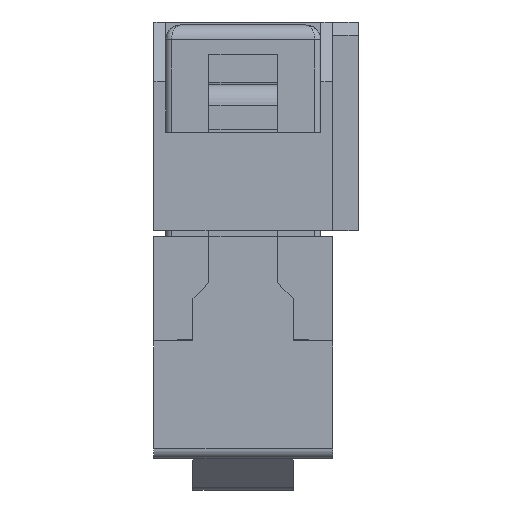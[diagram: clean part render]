
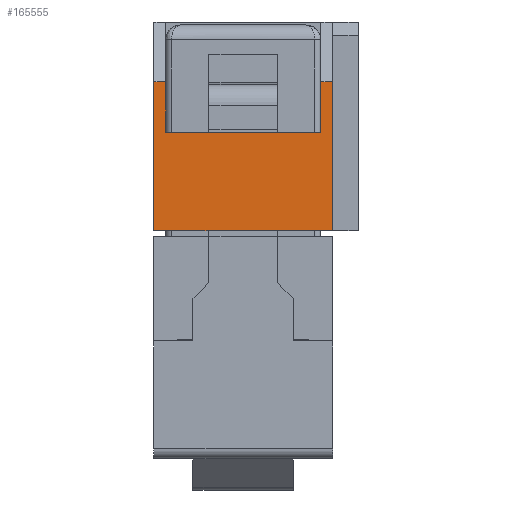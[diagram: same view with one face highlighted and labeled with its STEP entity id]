
A CAD part, left-side view. The second image highlights one B-rep face of the part: STEP entity #165555.
In plain terms, the highlighted planar face has unit normal (-1, 0, 0).
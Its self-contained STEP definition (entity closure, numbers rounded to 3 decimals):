
#155597 = PLANE('',#155598);
#155598 = AXIS2_PLACEMENT_3D('',#155599,#155600,#155601);
#155599 = CARTESIAN_POINT('',(-34.09,-3.,0.));
#155600 = DIRECTION('',(0.,0.,1.));
#155601 = DIRECTION('',(1.,0.,0.));
#158499 = VERTEX_POINT('',#158500);
#158500 = CARTESIAN_POINT('',(-34.09,-3.,0.));
#158514 = PLANE('',#158515);
#158515 = AXIS2_PLACEMENT_3D('',#158516,#158517,#158518);
#158516 = CARTESIAN_POINT('',(-34.09,-3.,7.));
#158517 = DIRECTION('',(0.,1.,0.));
#158518 = DIRECTION('',(-1.,0.,0.));
#158526 = EDGE_CURVE('',#158527,#158499,#158529,.T.);
#158527 = VERTEX_POINT('',#158528);
#158528 = CARTESIAN_POINT('',(-34.09,3.,0.));
#158529 = SURFACE_CURVE('',#158530,(#158534,#158541),.PCURVE_S1.);
#158530 = LINE('',#158531,#158532);
#158531 = CARTESIAN_POINT('',(-34.09,3.,0.));
#158532 = VECTOR('',#158533,1.);
#158533 = DIRECTION('',(0.,-1.,0.));
#158534 = PCURVE('',#155597,#158535);
#158535 = DEFINITIONAL_REPRESENTATION('',(#158536),#158540);
#158536 = LINE('',#158537,#158538);
#158537 = CARTESIAN_POINT('',(0.,6.));
#158538 = VECTOR('',#158539,1.);
#158539 = DIRECTION('',(0.,-1.));
#158540 = ( GEOMETRIC_REPRESENTATION_CONTEXT(2) 
PARAMETRIC_REPRESENTATION_CONTEXT() REPRESENTATION_CONTEXT('2D SPACE',''
  ) );
#158541 = PCURVE('',#158542,#158547);
#158542 = PLANE('',#158543);
#158543 = AXIS2_PLACEMENT_3D('',#158544,#158545,#158546);
#158544 = CARTESIAN_POINT('',(-34.09,3.,7.));
#158545 = DIRECTION('',(1.,0.,0.));
#158546 = DIRECTION('',(0.,0.,-1.));
#158547 = DEFINITIONAL_REPRESENTATION('',(#158548),#158552);
#158548 = LINE('',#158549,#158550);
#158549 = CARTESIAN_POINT('',(7.,0.));
#158550 = VECTOR('',#158551,1.);
#158551 = DIRECTION('',(0.,-1.));
#158552 = ( GEOMETRIC_REPRESENTATION_CONTEXT(2) 
PARAMETRIC_REPRESENTATION_CONTEXT() REPRESENTATION_CONTEXT('2D SPACE',''
  ) );
#158570 = PLANE('',#158571);
#158571 = AXIS2_PLACEMENT_3D('',#158572,#158573,#158574);
#158572 = CARTESIAN_POINT('',(34.09,3.,7.));
#158573 = DIRECTION('',(0.,-1.,0.));
#158574 = DIRECTION('',(1.,0.,0.));
#161036 = PLANE('',#161037);
#161037 = AXIS2_PLACEMENT_3D('',#161038,#161039,#161040);
#161038 = CARTESIAN_POINT('',(-33.69,-2.6,68.881));
#161039 = DIRECTION('',(0.,1.,0.));
#161040 = DIRECTION('',(-1.,0.,0.));
#161109 = PLANE('',#161110);
#161110 = AXIS2_PLACEMENT_3D('',#161111,#161112,#161113);
#161111 = CARTESIAN_POINT('',(-32.29,2.6,68.881));
#161112 = DIRECTION('',(0.,-1.,0.));
#161113 = DIRECTION('',(1.,0.,0.));
#165555 = ADVANCED_FACE('',(#165556),#158542,.F.);
#165556 = FACE_BOUND('',#165557,.T.);
#165557 = EDGE_LOOP('',(#165558,#165588,#165611,#165639,#165662,#165690,
    #165711,#165712));
#165558 = ORIENTED_EDGE('',*,*,#165559,.F.);
#165559 = EDGE_CURVE('',#165560,#165562,#165564,.T.);
#165560 = VERTEX_POINT('',#165561);
#165561 = CARTESIAN_POINT('',(-34.09,-2.6,5.));
#165562 = VERTEX_POINT('',#165563);
#165563 = CARTESIAN_POINT('',(-34.09,-3.,5.));
#165564 = SURFACE_CURVE('',#165565,(#165569,#165576),.PCURVE_S1.);
#165565 = LINE('',#165566,#165567);
#165566 = CARTESIAN_POINT('',(-34.09,3.,5.));
#165567 = VECTOR('',#165568,1.);
#165568 = DIRECTION('',(0.,-1.,0.));
#165569 = PCURVE('',#158542,#165570);
#165570 = DEFINITIONAL_REPRESENTATION('',(#165571),#165575);
#165571 = LINE('',#165572,#165573);
#165572 = CARTESIAN_POINT('',(2.,0.));
#165573 = VECTOR('',#165574,1.);
#165574 = DIRECTION('',(0.,-1.));
#165575 = ( GEOMETRIC_REPRESENTATION_CONTEXT(2) 
PARAMETRIC_REPRESENTATION_CONTEXT() REPRESENTATION_CONTEXT('2D SPACE',''
  ) );
#165576 = PCURVE('',#165577,#165582);
#165577 = PLANE('',#165578);
#165578 = AXIS2_PLACEMENT_3D('',#165579,#165580,#165581);
#165579 = CARTESIAN_POINT('',(-34.09,-68.881,5.));
#165580 = DIRECTION('',(-0.894,0.,0.447));
#165581 = DIRECTION('',(0.447,0.,0.894));
#165582 = DEFINITIONAL_REPRESENTATION('',(#165583),#165587);
#165583 = LINE('',#165584,#165585);
#165584 = CARTESIAN_POINT('',(0.,71.881));
#165585 = VECTOR('',#165586,1.);
#165586 = DIRECTION('',(0.,-1.));
#165587 = ( GEOMETRIC_REPRESENTATION_CONTEXT(2) 
PARAMETRIC_REPRESENTATION_CONTEXT() REPRESENTATION_CONTEXT('2D SPACE',''
  ) );
#165588 = ORIENTED_EDGE('',*,*,#165589,.F.);
#165589 = EDGE_CURVE('',#165590,#165560,#165592,.T.);
#165590 = VERTEX_POINT('',#165591);
#165591 = CARTESIAN_POINT('',(-34.09,-2.6,3.3));
#165592 = SURFACE_CURVE('',#165593,(#165597,#165604),.PCURVE_S1.);
#165593 = LINE('',#165594,#165595);
#165594 = CARTESIAN_POINT('',(-34.09,-2.6,3.3));
#165595 = VECTOR('',#165596,1.);
#165596 = DIRECTION('',(0.,0.,1.));
#165597 = PCURVE('',#158542,#165598);
#165598 = DEFINITIONAL_REPRESENTATION('',(#165599),#165603);
#165599 = LINE('',#165600,#165601);
#165600 = CARTESIAN_POINT('',(3.7,-5.6));
#165601 = VECTOR('',#165602,1.);
#165602 = DIRECTION('',(-1.,0.));
#165603 = ( GEOMETRIC_REPRESENTATION_CONTEXT(2) 
PARAMETRIC_REPRESENTATION_CONTEXT() REPRESENTATION_CONTEXT('2D SPACE',''
  ) );
#165604 = PCURVE('',#161036,#165605);
#165605 = DEFINITIONAL_REPRESENTATION('',(#165606),#165610);
#165606 = LINE('',#165607,#165608);
#165607 = CARTESIAN_POINT('',(0.4,-65.581));
#165608 = VECTOR('',#165609,1.);
#165609 = DIRECTION('',(0.,1.));
#165610 = ( GEOMETRIC_REPRESENTATION_CONTEXT(2) 
PARAMETRIC_REPRESENTATION_CONTEXT() REPRESENTATION_CONTEXT('2D SPACE',''
  ) );
#165611 = ORIENTED_EDGE('',*,*,#165612,.F.);
#165612 = EDGE_CURVE('',#165613,#165590,#165615,.T.);
#165613 = VERTEX_POINT('',#165614);
#165614 = CARTESIAN_POINT('',(-34.09,2.6,3.3));
#165615 = SURFACE_CURVE('',#165616,(#165620,#165627),.PCURVE_S1.);
#165616 = LINE('',#165617,#165618);
#165617 = CARTESIAN_POINT('',(-34.09,2.6,3.3));
#165618 = VECTOR('',#165619,1.);
#165619 = DIRECTION('',(0.,-1.,0.));
#165620 = PCURVE('',#158542,#165621);
#165621 = DEFINITIONAL_REPRESENTATION('',(#165622),#165626);
#165622 = LINE('',#165623,#165624);
#165623 = CARTESIAN_POINT('',(3.7,-0.4));
#165624 = VECTOR('',#165625,1.);
#165625 = DIRECTION('',(0.,-1.));
#165626 = ( GEOMETRIC_REPRESENTATION_CONTEXT(2) 
PARAMETRIC_REPRESENTATION_CONTEXT() REPRESENTATION_CONTEXT('2D SPACE',''
  ) );
#165627 = PCURVE('',#165628,#165633);
#165628 = PLANE('',#165629);
#165629 = AXIS2_PLACEMENT_3D('',#165630,#165631,#165632);
#165630 = CARTESIAN_POINT('',(34.791,2.6,3.3));
#165631 = DIRECTION('',(0.,0.,-1.));
#165632 = DIRECTION('',(-1.,0.,0.));
#165633 = DEFINITIONAL_REPRESENTATION('',(#165634),#165638);
#165634 = LINE('',#165635,#165636);
#165635 = CARTESIAN_POINT('',(68.881,0.));
#165636 = VECTOR('',#165637,1.);
#165637 = DIRECTION('',(0.,-1.));
#165638 = ( GEOMETRIC_REPRESENTATION_CONTEXT(2) 
PARAMETRIC_REPRESENTATION_CONTEXT() REPRESENTATION_CONTEXT('2D SPACE',''
  ) );
#165639 = ORIENTED_EDGE('',*,*,#165640,.F.);
#165640 = EDGE_CURVE('',#165641,#165613,#165643,.T.);
#165641 = VERTEX_POINT('',#165642);
#165642 = CARTESIAN_POINT('',(-34.09,2.6,5.));
#165643 = SURFACE_CURVE('',#165644,(#165648,#165655),.PCURVE_S1.);
#165644 = LINE('',#165645,#165646);
#165645 = CARTESIAN_POINT('',(-34.09,2.6,5.8));
#165646 = VECTOR('',#165647,1.);
#165647 = DIRECTION('',(0.,0.,-1.));
#165648 = PCURVE('',#158542,#165649);
#165649 = DEFINITIONAL_REPRESENTATION('',(#165650),#165654);
#165650 = LINE('',#165651,#165652);
#165651 = CARTESIAN_POINT('',(1.2,-0.4));
#165652 = VECTOR('',#165653,1.);
#165653 = DIRECTION('',(1.,0.));
#165654 = ( GEOMETRIC_REPRESENTATION_CONTEXT(2) 
PARAMETRIC_REPRESENTATION_CONTEXT() REPRESENTATION_CONTEXT('2D SPACE',''
  ) );
#165655 = PCURVE('',#161109,#165656);
#165656 = DEFINITIONAL_REPRESENTATION('',(#165657),#165661);
#165657 = LINE('',#165658,#165659);
#165658 = CARTESIAN_POINT('',(-1.8,-63.081));
#165659 = VECTOR('',#165660,1.);
#165660 = DIRECTION('',(0.,-1.));
#165661 = ( GEOMETRIC_REPRESENTATION_CONTEXT(2) 
PARAMETRIC_REPRESENTATION_CONTEXT() REPRESENTATION_CONTEXT('2D SPACE',''
  ) );
#165662 = ORIENTED_EDGE('',*,*,#165663,.F.);
#165663 = EDGE_CURVE('',#165664,#165641,#165666,.T.);
#165664 = VERTEX_POINT('',#165665);
#165665 = CARTESIAN_POINT('',(-34.09,3.,5.));
#165666 = SURFACE_CURVE('',#165667,(#165671,#165678),.PCURVE_S1.);
#165667 = LINE('',#165668,#165669);
#165668 = CARTESIAN_POINT('',(-34.09,3.,5.));
#165669 = VECTOR('',#165670,1.);
#165670 = DIRECTION('',(0.,-1.,0.));
#165671 = PCURVE('',#158542,#165672);
#165672 = DEFINITIONAL_REPRESENTATION('',(#165673),#165677);
#165673 = LINE('',#165674,#165675);
#165674 = CARTESIAN_POINT('',(2.,0.));
#165675 = VECTOR('',#165676,1.);
#165676 = DIRECTION('',(0.,-1.));
#165677 = ( GEOMETRIC_REPRESENTATION_CONTEXT(2) 
PARAMETRIC_REPRESENTATION_CONTEXT() REPRESENTATION_CONTEXT('2D SPACE',''
  ) );
#165678 = PCURVE('',#165679,#165684);
#165679 = PLANE('',#165680);
#165680 = AXIS2_PLACEMENT_3D('',#165681,#165682,#165683);
#165681 = CARTESIAN_POINT('',(-34.09,-68.881,5.));
#165682 = DIRECTION('',(-0.894,0.,0.447));
#165683 = DIRECTION('',(0.447,0.,0.894));
#165684 = DEFINITIONAL_REPRESENTATION('',(#165685),#165689);
#165685 = LINE('',#165686,#165687);
#165686 = CARTESIAN_POINT('',(0.,71.881));
#165687 = VECTOR('',#165688,1.);
#165688 = DIRECTION('',(0.,-1.));
#165689 = ( GEOMETRIC_REPRESENTATION_CONTEXT(2) 
PARAMETRIC_REPRESENTATION_CONTEXT() REPRESENTATION_CONTEXT('2D SPACE',''
  ) );
#165690 = ORIENTED_EDGE('',*,*,#165691,.T.);
#165691 = EDGE_CURVE('',#165664,#158527,#165692,.T.);
#165692 = SURFACE_CURVE('',#165693,(#165697,#165704),.PCURVE_S1.);
#165693 = LINE('',#165694,#165695);
#165694 = CARTESIAN_POINT('',(-34.09,3.,7.));
#165695 = VECTOR('',#165696,1.);
#165696 = DIRECTION('',(0.,0.,-1.));
#165697 = PCURVE('',#158542,#165698);
#165698 = DEFINITIONAL_REPRESENTATION('',(#165699),#165703);
#165699 = LINE('',#165700,#165701);
#165700 = CARTESIAN_POINT('',(0.,0.));
#165701 = VECTOR('',#165702,1.);
#165702 = DIRECTION('',(1.,0.));
#165703 = ( GEOMETRIC_REPRESENTATION_CONTEXT(2) 
PARAMETRIC_REPRESENTATION_CONTEXT() REPRESENTATION_CONTEXT('2D SPACE',''
  ) );
#165704 = PCURVE('',#158570,#165705);
#165705 = DEFINITIONAL_REPRESENTATION('',(#165706),#165710);
#165706 = LINE('',#165707,#165708);
#165707 = CARTESIAN_POINT('',(-68.18,0.));
#165708 = VECTOR('',#165709,1.);
#165709 = DIRECTION('',(0.,-1.));
#165710 = ( GEOMETRIC_REPRESENTATION_CONTEXT(2) 
PARAMETRIC_REPRESENTATION_CONTEXT() REPRESENTATION_CONTEXT('2D SPACE',''
  ) );
#165711 = ORIENTED_EDGE('',*,*,#158526,.T.);
#165712 = ORIENTED_EDGE('',*,*,#165713,.F.);
#165713 = EDGE_CURVE('',#165562,#158499,#165714,.T.);
#165714 = SURFACE_CURVE('',#165715,(#165719,#165726),.PCURVE_S1.);
#165715 = LINE('',#165716,#165717);
#165716 = CARTESIAN_POINT('',(-34.09,-3.,7.));
#165717 = VECTOR('',#165718,1.);
#165718 = DIRECTION('',(0.,0.,-1.));
#165719 = PCURVE('',#158542,#165720);
#165720 = DEFINITIONAL_REPRESENTATION('',(#165721),#165725);
#165721 = LINE('',#165722,#165723);
#165722 = CARTESIAN_POINT('',(0.,-6.));
#165723 = VECTOR('',#165724,1.);
#165724 = DIRECTION('',(1.,0.));
#165725 = ( GEOMETRIC_REPRESENTATION_CONTEXT(2) 
PARAMETRIC_REPRESENTATION_CONTEXT() REPRESENTATION_CONTEXT('2D SPACE',''
  ) );
#165726 = PCURVE('',#158514,#165727);
#165727 = DEFINITIONAL_REPRESENTATION('',(#165728),#165732);
#165728 = LINE('',#165729,#165730);
#165729 = CARTESIAN_POINT('',(0.,0.));
#165730 = VECTOR('',#165731,1.);
#165731 = DIRECTION('',(-0.,-1.));
#165732 = ( GEOMETRIC_REPRESENTATION_CONTEXT(2) 
PARAMETRIC_REPRESENTATION_CONTEXT() REPRESENTATION_CONTEXT('2D SPACE',''
  ) );
